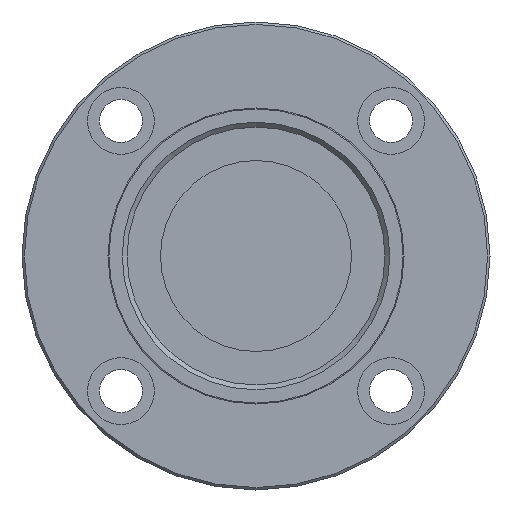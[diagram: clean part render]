
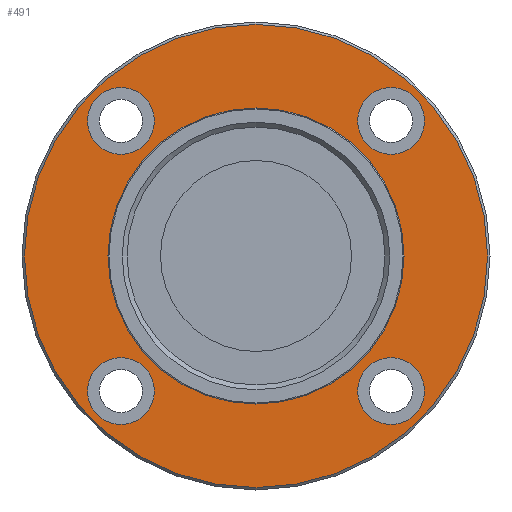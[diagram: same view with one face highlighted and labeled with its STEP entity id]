
A CAD part, front view. The second image highlights one B-rep face of the part: STEP entity #491.
In plain terms, the highlighted planar face has unit normal (0, -1, 0).
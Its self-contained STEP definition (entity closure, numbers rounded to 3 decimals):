
#101=CARTESIAN_POINT('',(-21.284,-77.,-28.284));
#102=VERTEX_POINT('',#101);
#103=CARTESIAN_POINT('',(-28.284,-77.,-28.284));
#104=DIRECTION('',(0.0,1.0,0.0));
#105=DIRECTION('',(1.0,0.0,0.0));
#106=AXIS2_PLACEMENT_3D('',#103,#104,#105);
#107=CIRCLE('',#106,7.);
#108=EDGE_CURVE('',#102,#102,#107,.T.);
#169=CARTESIAN_POINT('',(35.284,-77.,-28.284));
#170=VERTEX_POINT('',#169);
#171=CARTESIAN_POINT('',(28.284,-77.,-28.284));
#172=DIRECTION('',(0.0,1.0,0.0));
#173=DIRECTION('',(1.0,0.0,0.0));
#174=AXIS2_PLACEMENT_3D('',#171,#172,#173);
#175=CIRCLE('',#174,7.);
#176=EDGE_CURVE('',#170,#170,#175,.T.);
#237=CARTESIAN_POINT('',(35.284,-77.,28.284));
#238=VERTEX_POINT('',#237);
#239=CARTESIAN_POINT('',(28.284,-77.,28.284));
#240=DIRECTION('',(0.0,1.0,0.0));
#241=DIRECTION('',(1.0,0.0,0.0));
#242=AXIS2_PLACEMENT_3D('',#239,#240,#241);
#243=CIRCLE('',#242,7.);
#244=EDGE_CURVE('',#238,#238,#243,.T.);
#305=CARTESIAN_POINT('',(-21.284,-77.,28.284));
#306=VERTEX_POINT('',#305);
#307=CARTESIAN_POINT('',(-28.284,-77.,28.284));
#308=DIRECTION('',(0.0,1.0,0.0));
#309=DIRECTION('',(1.0,0.0,0.0));
#310=AXIS2_PLACEMENT_3D('',#307,#308,#309);
#311=CIRCLE('',#310,7.);
#312=EDGE_CURVE('',#306,#306,#311,.T.);
#345=CARTESIAN_POINT('',(31.,-77.,0.0));
#346=VERTEX_POINT('',#345);
#347=CARTESIAN_POINT('',(0.0,-77.,0.0));
#348=DIRECTION('',(0.0,-1.0,0.0));
#349=DIRECTION('',(1.0,0.0,0.0));
#350=AXIS2_PLACEMENT_3D('',#347,#348,#349);
#351=CIRCLE('',#350,31.);
#352=EDGE_CURVE('',#346,#346,#351,.T.);
#453=CARTESIAN_POINT('',(48.5,-77.,0.0));
#454=VERTEX_POINT('',#453);
#455=CARTESIAN_POINT('',(0.0,-77.,0.0));
#456=DIRECTION('',(0.0,-1.0,0.0));
#457=DIRECTION('',(1.0,0.0,0.0));
#458=AXIS2_PLACEMENT_3D('',#455,#456,#457);
#459=CIRCLE('',#458,48.5);
#460=EDGE_CURVE('',#454,#454,#459,.T.);
#468=CARTESIAN_POINT('',(39.75,-77.,0.0));
#469=DIRECTION('',(0.0,-1.0,0.0));
#470=DIRECTION('',(0.0,0.0,-1.0));
#471=AXIS2_PLACEMENT_3D('',#468,#469,#470);
#472=PLANE('',#471);
#473=ORIENTED_EDGE('',*,*,#460,.T.);
#474=EDGE_LOOP('',(#473));
#475=FACE_OUTER_BOUND('',#474,.T.);
#476=ORIENTED_EDGE('',*,*,#108,.T.);
#477=EDGE_LOOP('',(#476));
#478=FACE_BOUND('',#477,.T.);
#479=ORIENTED_EDGE('',*,*,#176,.T.);
#480=EDGE_LOOP('',(#479));
#481=FACE_BOUND('',#480,.T.);
#482=ORIENTED_EDGE('',*,*,#244,.T.);
#483=EDGE_LOOP('',(#482));
#484=FACE_BOUND('',#483,.T.);
#485=ORIENTED_EDGE('',*,*,#312,.T.);
#486=EDGE_LOOP('',(#485));
#487=FACE_BOUND('',#486,.T.);
#488=ORIENTED_EDGE('',*,*,#352,.F.);
#489=EDGE_LOOP('',(#488));
#490=FACE_BOUND('',#489,.T.);
#491=ADVANCED_FACE('',(#475,#478,#481,#484,#487,#490),#472,.T.);
